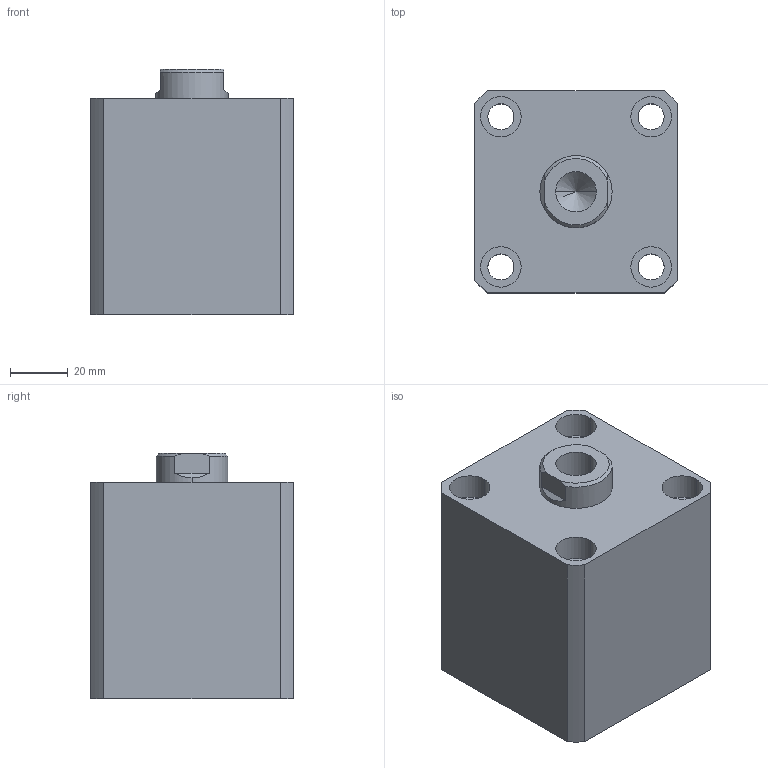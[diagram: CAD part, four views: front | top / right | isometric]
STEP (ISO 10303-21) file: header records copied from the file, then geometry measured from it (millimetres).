
FILE_DESCRIPTION (( 'STEP AP203' ), '1' );
FILE_NAME ('HTB-SDMB40-20N.STEP', '2019-10-09T01:48:23', ( '微软用户' ), ( '微软中国' ), 'SwSTEP 2.0', 'SolidWorks 2012', '' );
FILE_SCHEMA (( 'CONFIG_CONTROL_DESIGN' ));
Length unit declared in the file: millimetre
Products named in the file (3): HTB-SDMB40-20N; HTB-SDMB40-20N活塞杆; HTB-SDMB40-20掛极
Assembly tree (2 placements, depth 2):
  HTB-SDMB40-20N
    HTB-SDMB40-20掛极
    HTB-SDMB40-20N活塞杆
Bounding box: 70 x 70 x 85 mm (x, y, z)
Volume: 324112.2 mm3; surface area: 58141.8 mm2
Topology: 2 solids, 2 shells, 137 faces, 331 edges, 217 vertices
Faces by surface type: plane 65, cylinder 46, bspline 16, torus 6, cone 4
Entity records: 5074 total; most frequent: CARTESIAN_POINT 1580, ORIENTED_EDGE 658, DIRECTION 647, EDGE_CURVE 329, AXIS2_PLACEMENT_3D 232, VERTEX_POINT 217, VECTOR 183, LINE 183
